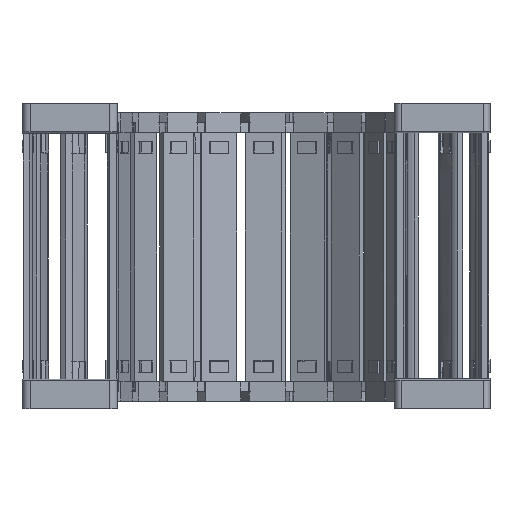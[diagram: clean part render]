
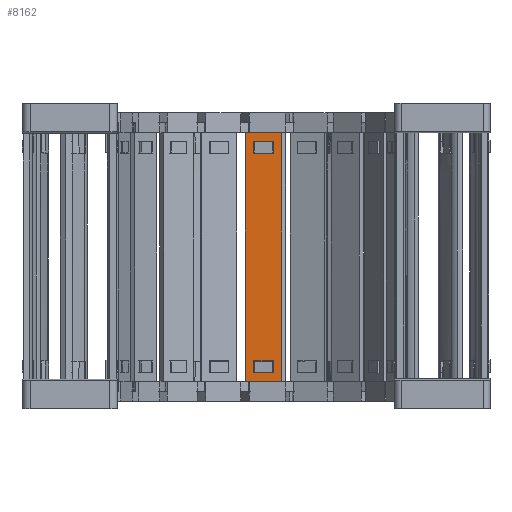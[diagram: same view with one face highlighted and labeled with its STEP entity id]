
A CAD part, top view. The second image highlights one B-rep face of the part: STEP entity #8162.
In plain terms, the highlighted planar face has unit normal (-0.044, 0, 0.999).
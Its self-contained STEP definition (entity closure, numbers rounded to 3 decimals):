
#8162=ADVANCED_FACE('',(#34153,#34154,#34155),#12009,.F.);
#12009=PLANE('',#94497);
#18798=LINE('',#136860,#28174);
#18852=LINE('',#137019,#28228);
#18917=LINE('',#137379,#28293);
#18918=LINE('',#137381,#28294);
#18922=LINE('',#137389,#28298);
#19015=LINE('',#137690,#28391);
#19049=LINE('',#137800,#28425);
#19098=LINE('',#138124,#28474);
#19102=LINE('',#138136,#28478);
#19113=LINE('',#138161,#28489);
#19117=LINE('',#138168,#28493);
#19119=LINE('',#138172,#28495);
#19124=LINE('',#138202,#28500);
#19128=LINE('',#138212,#28504);
#19133=LINE('',#138244,#28509);
#19134=LINE('',#138245,#28510);
#19135=LINE('',#138246,#28511);
#19136=LINE('',#138248,#28512);
#28174=VECTOR('',#107755,1.);
#28228=VECTOR('',#107845,1.);
#28293=VECTOR('',#108062,1.);
#28294=VECTOR('',#108065,1.);
#28298=VECTOR('',#108071,1.);
#28391=VECTOR('',#108280,1.);
#28425=VECTOR('',#108338,1.);
#28474=VECTOR('',#108521,1.);
#28478=VECTOR('',#108531,1.);
#28489=VECTOR('',#108552,1.);
#28493=VECTOR('',#108558,1.);
#28495=VECTOR('',#108562,1.);
#28500=VECTOR('',#108575,1.);
#28504=VECTOR('',#108585,1.);
#28509=VECTOR('',#108604,1.);
#28510=VECTOR('',#108605,1.);
#28511=VECTOR('',#108606,1.);
#28512=VECTOR('',#108607,1.);
#34153=FACE_BOUND('',#36376,.T.);
#34154=FACE_BOUND('',#36377,.T.);
#34155=FACE_BOUND('',#36378,.T.);
#36376=EDGE_LOOP('',(#50539,#50540,#50541,#50542,#50543,#50544));
#36377=EDGE_LOOP('',(#50545,#50546,#50547,#50548,#50549,#50550));
#36378=EDGE_LOOP('',(#50551,#50552,#50553,#50554,#50555,#50556));
#50539=ORIENTED_EDGE('',*,*,#81401,.T.);
#50540=ORIENTED_EDGE('',*,*,#81349,.F.);
#50541=ORIENTED_EDGE('',*,*,#81216,.F.);
#50542=ORIENTED_EDGE('',*,*,#81373,.F.);
#50543=ORIENTED_EDGE('',*,*,#80906,.F.);
#50544=ORIENTED_EDGE('',*,*,#81083,.F.);
#50545=ORIENTED_EDGE('',*,*,#81402,.F.);
#50546=ORIENTED_EDGE('',*,*,#81383,.T.);
#50547=ORIENTED_EDGE('',*,*,#81371,.T.);
#50548=ORIENTED_EDGE('',*,*,#81355,.F.);
#50549=ORIENTED_EDGE('',*,*,#81258,.F.);
#50550=ORIENTED_EDGE('',*,*,#81388,.F.);
#50551=ORIENTED_EDGE('',*,*,#81084,.F.);
#50552=ORIENTED_EDGE('',*,*,#81367,.T.);
#50553=ORIENTED_EDGE('',*,*,#81403,.T.);
#50554=ORIENTED_EDGE('',*,*,#81404,.F.);
#50555=ORIENTED_EDGE('',*,*,#81088,.F.);
#50556=ORIENTED_EDGE('',*,*,#80972,.F.);
#70000=VERTEX_POINT('',#136859);
#70001=VERTEX_POINT('',#136861);
#70027=VERTEX_POINT('',#136943);
#70053=VERTEX_POINT('',#137006);
#70118=VERTEX_POINT('',#137378);
#70119=VERTEX_POINT('',#137382);
#70122=VERTEX_POINT('',#137390);
#70209=VERTEX_POINT('',#137689);
#70210=VERTEX_POINT('',#137691);
#70230=VERTEX_POINT('',#137762);
#70244=VERTEX_POINT('',#137792);
#70296=VERTEX_POINT('',#138125);
#70301=VERTEX_POINT('',#138137);
#70309=VERTEX_POINT('',#138160);
#70312=VERTEX_POINT('',#138169);
#70318=VERTEX_POINT('',#138203);
#70320=VERTEX_POINT('',#138211);
#70325=VERTEX_POINT('',#138247);
#80906=EDGE_CURVE('',#70000,#70001,#18798,.T.);
#80972=EDGE_CURVE('',#70053,#70027,#18852,.T.);
#81083=EDGE_CURVE('',#70118,#70000,#18917,.T.);
#81084=EDGE_CURVE('',#70119,#70053,#18918,.T.);
#81088=EDGE_CURVE('',#70027,#70122,#18922,.T.);
#81216=EDGE_CURVE('',#70209,#70210,#19015,.T.);
#81258=EDGE_CURVE('',#70230,#70244,#19049,.T.);
#81349=EDGE_CURVE('',#70210,#70296,#19098,.T.);
#81355=EDGE_CURVE('',#70244,#70301,#19102,.T.);
#81367=EDGE_CURVE('',#70119,#70309,#19113,.T.);
#81371=EDGE_CURVE('',#70312,#70301,#19117,.T.);
#81373=EDGE_CURVE('',#70001,#70209,#19119,.T.);
#81383=EDGE_CURVE('',#70318,#70312,#19124,.T.);
#81388=EDGE_CURVE('',#70320,#70230,#19128,.T.);
#81401=EDGE_CURVE('',#70118,#70296,#19133,.T.);
#81402=EDGE_CURVE('',#70318,#70320,#19134,.T.);
#81403=EDGE_CURVE('',#70309,#70325,#19135,.T.);
#81404=EDGE_CURVE('',#70122,#70325,#19136,.T.);
#94497=AXIS2_PLACEMENT_3D('',#138249,#108608,#108609);
#107755=DIRECTION('',(0.999,0.,0.044));
#107845=DIRECTION('',(-0.999,0.,-0.044));
#108062=DIRECTION('',(0.999,0.,0.044));
#108065=DIRECTION('',(-0.999,0.,-0.044));
#108071=DIRECTION('',(-0.999,0.,-0.044));
#108280=DIRECTION('',(-0.999,0.,-0.044));
#108338=DIRECTION('',(0.999,0.,0.044));
#108521=DIRECTION('',(-0.999,0.,-0.044));
#108531=DIRECTION('',(0.999,0.,0.044));
#108552=DIRECTION('',(0.,-1.,0.));
#108558=DIRECTION('',(0.,-1.,0.));
#108562=DIRECTION('',(0.,-1.,0.));
#108575=DIRECTION('',(0.999,0.,0.044));
#108585=DIRECTION('',(0.999,0.,0.044));
#108604=DIRECTION('',(0.,-1.,0.));
#108605=DIRECTION('',(0.,-1.,0.));
#108606=DIRECTION('',(-0.999,0.,-0.044));
#108607=DIRECTION('',(0.,-1.,0.));
#108608=DIRECTION('',(0.044,0.,-0.999));
#108609=DIRECTION('',(0.999,0.,0.044));
#136859=CARTESIAN_POINT('',(402.05,134.434,711.867));
#136860=CARTESIAN_POINT('',(401.714,134.434,711.853));
#136861=CARTESIAN_POINT('',(412.104,134.434,712.306));
#136943=CARTESIAN_POINT('',(403.765,131.822,711.942));
#137006=CARTESIAN_POINT('',(409.453,131.822,712.191));
#137019=CARTESIAN_POINT('',(409.627,131.822,712.198));
#137378=CARTESIAN_POINT('',(401.114,134.434,711.827));
#137379=CARTESIAN_POINT('',(401.714,134.434,711.853));
#137381=CARTESIAN_POINT('',(409.627,131.822,712.198));
#137382=CARTESIAN_POINT('',(409.627,131.822,712.198));
#137389=CARTESIAN_POINT('',(409.627,131.822,712.198));
#137390=CARTESIAN_POINT('',(403.591,131.822,711.935));
#137689=CARTESIAN_POINT('',(412.104,58.934,712.306));
#137690=CARTESIAN_POINT('',(401.714,58.934,711.853));
#137691=CARTESIAN_POINT('',(402.05,58.934,711.867));
#137762=CARTESIAN_POINT('',(403.765,61.545,711.942));
#137792=CARTESIAN_POINT('',(409.453,61.545,712.191));
#137800=CARTESIAN_POINT('',(409.627,61.545,712.198));
#138124=CARTESIAN_POINT('',(401.714,58.934,711.853));
#138125=CARTESIAN_POINT('',(401.114,58.934,711.827));
#138136=CARTESIAN_POINT('',(409.627,61.545,712.198));
#138137=CARTESIAN_POINT('',(409.627,61.545,712.198));
#138160=CARTESIAN_POINT('',(409.627,128.15,712.198));
#138161=CARTESIAN_POINT('',(409.627,146.919,712.198));
#138168=CARTESIAN_POINT('',(409.627,46.448,712.198));
#138169=CARTESIAN_POINT('',(409.627,65.218,712.198));
#138172=CARTESIAN_POINT('',(412.104,66.448,712.306));
#138202=CARTESIAN_POINT('',(409.627,65.218,712.198));
#138203=CARTESIAN_POINT('',(403.591,65.218,711.935));
#138211=CARTESIAN_POINT('',(403.591,61.545,711.935));
#138212=CARTESIAN_POINT('',(409.627,61.545,712.198));
#138244=CARTESIAN_POINT('',(401.114,66.448,711.827));
#138245=CARTESIAN_POINT('',(403.591,46.448,711.935));
#138246=CARTESIAN_POINT('',(409.627,128.15,712.198));
#138247=CARTESIAN_POINT('',(403.591,128.15,711.935));
#138248=CARTESIAN_POINT('',(403.591,146.919,711.935));
#138249=CARTESIAN_POINT('',(399.637,66.448,711.762));
